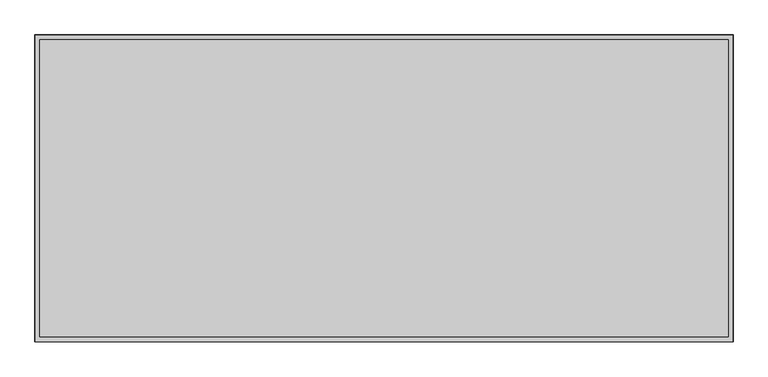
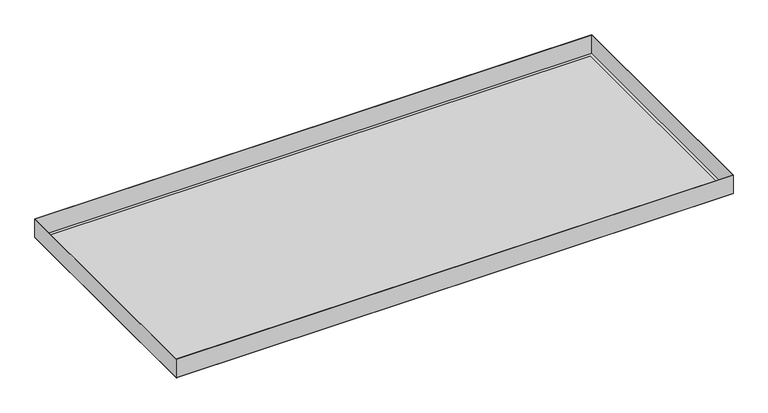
"""IFC4 building model written with IfcOpenShell, lengths in millimetres: proxy geometry, durlum_S-OM-63 : durlum_S-OM-63_panel_wall_width_cut."""

import ifcopenshell
import ifcopenshell.guid

model = None  # the IFC model being written
_history = None  # IfcOwnerHistory: only IFC2X3 demands one
_inside = {}  # id of a spatial element -> (the spatial element, [elements in it])
_under = {}  # id of a project, library or spatial element -> (it, [spatial elements below it])
_declared = {}  # id of a project -> (the project, [libraries it declares])
_typed = {}  # id of a type object -> (the type object, [elements of that type])
_made_of = {}  # id of a material, layer set ... -> (it, [elements and type objects made of it])


def new_model(schema):
    """Start an empty IFC model of exactly this schema.

    Asked for "IFC4X3", IfcOpenShell would pick the latest addendum, in which some entities
    have other attributes; the version numbers below select the first issue.
    IFC2X3 requires an IfcOwnerHistory on every rooted entity: one is made here for all.
    """
    global model, _history
    if schema == "IFC4X3":
        model = ifcopenshell.file(schema_version=(4, 3, 0, 0))
    else:
        model = ifcopenshell.file(schema=schema)
    _inside.clear()
    _under.clear()
    _declared.clear()
    _typed.clear()
    _made_of.clear()
    _history = None
    if model.schema == "IFC2X3":
        org = make("IfcOrganization", Name="unknown")
        user = make(
            "IfcPersonAndOrganization",
            ThePerson=make("IfcPerson", FamilyName="unknown"),
            TheOrganization=org,
        )
        app = make(
            "IfcApplication",
            ApplicationDeveloper=org,
            Version="unknown",
            ApplicationFullName="unknown",
            ApplicationIdentifier="unknown",
        )
        _history = make(
            "IfcOwnerHistory",
            OwningUser=user,
            OwningApplication=app,
            ChangeAction="ADDED",
            CreationDate=0,
        )
    return model


def make(cls, **values):
    """One entity of the class cls with the attributes given. An attribute that is None is left unset."""
    return model.create_entity(
        cls, **{name: value for name, value in values.items() if value is not None}
    )


def rooted(cls, **values):
    """An entity with a GlobalId (a new one), such as an element, a storey or a relation."""
    return make(cls, GlobalId=ifcopenshell.guid.new(), OwnerHistory=_history, **values)


def si_unit(unit_type, name, prefix=None):
    """IfcSIUnit, for example si_unit("LENGTHUNIT", "METRE", prefix="MILLI")."""
    return make("IfcSIUnit", UnitType=unit_type, Prefix=prefix, Name=name)


def assignment(units):
    """IfcUnitAssignment: the units of a project."""
    return None if units is None else make("IfcUnitAssignment", Units=units)


def point(xyz):
    """IfcCartesianPoint."""
    return None if xyz is None else make("IfcCartesianPoint", Coordinates=xyz)


def direction(xyz):
    """IfcDirection."""
    return None if xyz is None else make("IfcDirection", DirectionRatios=xyz)


def frame(location, z_axis=None, x_axis=None):
    """IfcAxis2Placement3D, a coordinate frame: its origin and axes. An axis left out is left unset."""
    return make(
        "IfcAxis2Placement3D",
        Location=point(location),
        Axis=direction(z_axis),
        RefDirection=direction(x_axis),
    )


def origin():
    """The frame at (0, 0, 0) with its axes left unset."""
    return frame((0.0, 0.0, 0.0))


def origin_with_axes():
    """The frame at (0, 0, 0) with the z axis (0, 0, 1) and the x axis (1, 0, 0) written out."""
    return frame((0.0, 0.0, 0.0), z_axis=(0.0, 0.0, 1.0), x_axis=(1.0, 0.0, 0.0))


def place(relative_to, where):
    """IfcLocalPlacement: puts the frame where relative to a parent placement (None: the world)."""
    return make(
        "IfcLocalPlacement", PlacementRelTo=relative_to, RelativePlacement=where
    )


def context(
    kind, dimensions, precision=None, world=None, true_north=None, identifier=None
):
    """IfcGeometricRepresentationContext, for example the 3D "Model" context."""
    return make(
        "IfcGeometricRepresentationContext",
        ContextIdentifier=identifier,
        ContextType=kind,
        CoordinateSpaceDimension=dimensions,
        Precision=precision,
        WorldCoordinateSystem=world,
        TrueNorth=true_north,
    )


def project(units=None, contexts=None):
    """IfcProject with its units and contexts."""
    return rooted(
        "IfcProject",
        Name="project",
        RepresentationContexts=contexts,
        UnitsInContext=assignment(units),
    )


def spatial(cls, under=None, at=None, **own):
    """A site, building, storey or space (cls), placed at a placement, below another one or the project."""
    s = rooted(cls, ObjectPlacement=at, **own)
    if under is not None:
        _under.setdefault(under.id(), (under, []))[1].append(s)
    return s


def polyline(points):
    """IfcPolyline through the points."""
    return make("IfcPolyline", Points=[point(p) for p in points])


def outline(outer, holes=None, kind="AREA"):
    """IfcArbitraryClosedProfileDef: a profile drawn as a closed curve; with holes, ...WithVoids."""
    if holes is None:
        return make("IfcArbitraryClosedProfileDef", ProfileType=kind, OuterCurve=outer)
    return make(
        "IfcArbitraryProfileDefWithVoids",
        ProfileType=kind,
        OuterCurve=outer,
        InnerCurves=holes,
    )


def extrude(swept, where, along, depth):
    """IfcExtrudedAreaSolid: the profile swept, set in the frame where, extruded along a direction by depth."""
    return make(
        "IfcExtrudedAreaSolid",
        SweptArea=swept,
        Position=where,
        ExtrudedDirection=direction(along),
        Depth=depth,
    )


def shape(context_of_items, identifier, shape_type, items):
    """IfcShapeRepresentation: the items that make up one representation, for example the "Body"."""
    return make(
        "IfcShapeRepresentation",
        ContextOfItems=context_of_items,
        RepresentationIdentifier=identifier,
        RepresentationType=shape_type,
        Items=items,
    )


def source(mapping_origin, context_of_items, identifier, shape_type, items):
    """IfcRepresentationMap: a shape defined once, which mapped items show again and again."""
    return make(
        "IfcRepresentationMap",
        MappingOrigin=mapping_origin,
        MappedRepresentation=shape(context_of_items, identifier, shape_type, items),
    )


def transform(
    local_origin,
    x_axis=None,
    y_axis=None,
    z_axis=None,
    scale=None,
    scale2=None,
    scale3=None,
    uniform=True,
):
    """IfcCartesianTransformationOperator3D, or its non-uniform kind. x_axis, y_axis, z_axis: its Axis1, 2, 3."""
    if uniform:
        return make(
            "IfcCartesianTransformationOperator3D",
            Axis1=direction(x_axis),
            Axis2=direction(y_axis),
            LocalOrigin=point(local_origin),
            Scale=scale,
            Axis3=direction(z_axis),
        )
    return make(
        "IfcCartesianTransformationOperator3DnonUniform",
        Axis1=direction(x_axis),
        Axis2=direction(y_axis),
        LocalOrigin=point(local_origin),
        Scale=scale,
        Axis3=direction(z_axis),
        Scale2=scale2,
        Scale3=scale3,
    )


def mapped(mapping_source, mapping_target):
    """IfcMappedItem: shows the shape of a source again, moved by a transform."""
    return make(
        "IfcMappedItem", MappingSource=mapping_source, MappingTarget=mapping_target
    )


def made_of(thing, what):
    """Note that an element or type object is made of a material, layer set ...; save() writes the relation."""
    if what is not None:
        _made_of.setdefault(what.id(), (what, []))[1].append(thing)
    return thing


def element(
    cls,
    number,
    at=None,
    inside=None,
    cuts=None,
    type_object=None,
    material=None,
    context=None,
    identifier="Body",
    shape_type=None,
    held_by="IfcProductDefinitionShape",
    body=None,
    shapes=None,
    **own,
):
    """One element of the class cls, such as IfcWall. Its Tag is "e" and its number.

    at: its placement. inside: the storey or other place that contains it. cuts: it is an
    opening in that element (IfcRelVoidsElement). A single representation is given by context,
    identifier, shape_type and body (its items); several are given by shapes. held_by: the class
    of the entity that holds the representations. save() writes the other relations.
    """
    e = rooted(cls, Tag="e%d" % number, ObjectPlacement=at, **own)
    if body is not None:
        shapes = [shape(context, identifier, shape_type, body)]
    if shapes is not None:
        e.Representation = make(held_by, Representations=shapes)
    if inside is not None:
        _inside.setdefault(inside.id(), (inside, []))[1].append(e)
    if cuts is not None:
        rooted(
            "IfcRelVoidsElement", RelatingBuildingElement=cuts, RelatedOpeningElement=e
        )
    if type_object is not None:
        _typed.setdefault(type_object.id(), (type_object, []))[1].append(e)
    return made_of(e, material)


def aggregate(whole, parts):
    """IfcRelAggregates: a whole, such as a stair, and the parts it consists of."""
    return rooted("IfcRelAggregates", RelatingObject=whole, RelatedObjects=parts)


def save(model, path):
    """Write the relations noted so far, then the file.

    IfcRelAggregates (storeys below a building ...), IfcRelContainedInSpatialStructure (elements
    in a storey), IfcRelDefinesByType, IfcRelAssociatesMaterial and IfcRelDeclares: one each for
    every whole, place, type object, material and project.
    """
    for whole, parts in _under.values():
        aggregate(whole, parts)
    for where, things in _inside.values():
        rooted(
            "IfcRelContainedInSpatialStructure",
            RelatedElements=things,
            RelatingStructure=where,
        )
    for kind, things in _typed.values():
        rooted("IfcRelDefinesByType", RelatedObjects=things, RelatingType=kind)
    for what, things in _made_of.values():
        rooted("IfcRelAssociatesMaterial", RelatedObjects=things, RelatingMaterial=what)
    for by, libraries in _declared.values():
        rooted("IfcRelDeclares", RelatingContext=by, RelatedDefinitions=libraries)
    model.write(path)


def generic_models_1190d022(model_context):
    return source(origin(), model_context, "Body", "SweptSolid", [
        extrude(outline(polyline([(567.45, 249.5), (567.45, -249.5), (-567.45, -249.5), (-567.45, 249.5), (567.45, 249.5)]), holes=[polyline([(566.85, 248.9), (-566.85, 248.9), (-566.85, -248.9), (566.85, -248.9), (566.85, 248.9)])]), frame((0.0, 0.0, 0.6), z_axis=(0.0, 0.0, 1.0), x_axis=(1.0, 0.0, 0.0)), (0.0, 0.0, 1.0), 39.4),
        extrude(outline(polyline([(559.45, 241.5), (559.45, -241.5), (-559.45, -241.5), (-559.45, 241.5), (559.45, 241.5)])), frame((0.0, 0.0, 0.6), z_axis=(0.0, 0.0, 1.0), x_axis=(1.0, 0.0, 0.0)), (0.0, 0.0, 1.0), 0.6),
        extrude(outline(polyline([(567.45, 249.5), (567.45, -249.5), (-567.45, -249.5), (-567.45, 249.5), (567.45, 249.5)]), holes=[polyline([(559.45, 241.5), (-559.45, 241.5), (-559.45, -241.5), (559.45, -241.5), (559.45, 241.5)])]), origin_with_axes(), (0.0, 0.0, 1.0), 0.6),
        extrude(outline(polyline([(559.45, 241.5), (559.45, -241.5), (-559.45, -241.5), (-559.45, 241.5), (559.45, 241.5)])), origin_with_axes(), (0.0, 0.0, 1.0), 0.6),
    ])


if __name__ == "__main__":
    model = new_model("IFC4")
    model_context = context("Model", 3, world=origin())
    ifc_project = project(units=[si_unit("LENGTHUNIT", "METRE", prefix="MILLI")], contexts=[model_context])
    site = spatial("IfcSite", under=ifc_project)
    building = spatial("IfcBuilding", under=site)
    placement = place(None, origin())
    generic_models_shape = generic_models_1190d022(model_context)
    element("IfcBuildingElementProxy", 1, Name="durlum_S-OM-63 : durlum_S-OM-63_panel_wall_width_cut", ObjectType="durlum_S-OM-63 : durlum_S-OM-63_panel_wall_width_cut", at=placement, inside=building, context=model_context, shape_type="MappedRepresentation", body=[
        mapped(generic_models_shape, transform((0.0, 0.0, 0.0), x_axis=(1.0, 0.0, 0.0), y_axis=(0.0, 1.0, 0.0), z_axis=(0.0, 0.0, 1.0))),
    ])
    save(model, "model.ifc")
